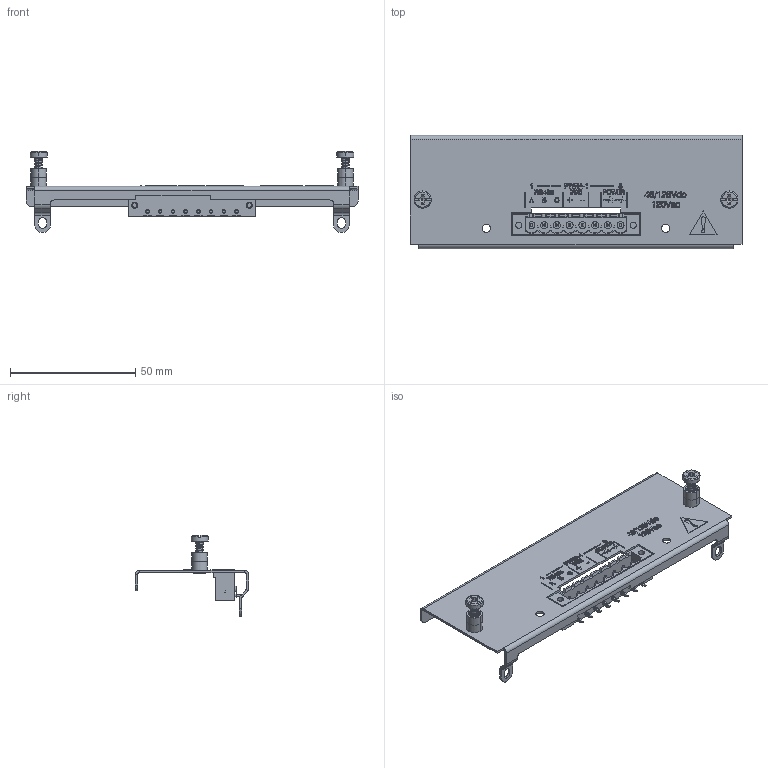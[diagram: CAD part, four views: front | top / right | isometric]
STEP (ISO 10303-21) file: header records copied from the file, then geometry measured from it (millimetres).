
FILE_DESCRIPTION(/* description */ (''),/* implementation_level */ '2;1');
FILE_NAME(/* name */ 'C:\Users\jondi\Desktop\FLEX 3D STP\PWRA-1.stp',/* time_stamp */ '2021-03-11T08:06:02-06:00',/* author */ ('jondi'),/* organization */ (''),/* preprocessor_version */ 'ST-DEVELOPER v17.2',/* originating_system */ 'Autodesk Inventor 2019',/* authorisation */ '');
FILE_SCHEMA (('AUTOMOTIVE_DESIGN { 1 0 10303 214 3 1 1 }'));
Products named in the file (7): PWRA-1; 9579230100; 9579200013; 9579200013_1; 44090; 44086; 9579200055
Assembly tree (7 placements, depth 4):
  PWRA-1
    9579230100
      9579200013
        9579200013_1
      44090  x2
    44086
    9579200055
Bounding box: 132.59 x 45.21 x 32.36 mm (x, y, z)
Volume: 9670.8 mm3; surface area: 19415.2 mm2
Topology: 64 solids, 64 shells, 1811 faces, 4411 edges, 2795 vertices
Faces by surface type: plane 1346, bspline 273, cylinder 118, cone 62, sphere 8, torus 4
Full cylindrical faces by diameter (mm): 0.434 x1, 1.4 x8, 1.8 x2, 2.4 x2, 2.5 x2, 2.8 x7, 3.353 x2, 4.826 x2
Entity records: 54540 total; most frequent: CARTESIAN_POINT 14763, ORIENTED_EDGE 8378, DIRECTION 6932, EDGE_CURVE 4189, LINE 3184, VECTOR 3184, VERTEX_POINT 2669, AXIS2_PLACEMENT_3D 1874
